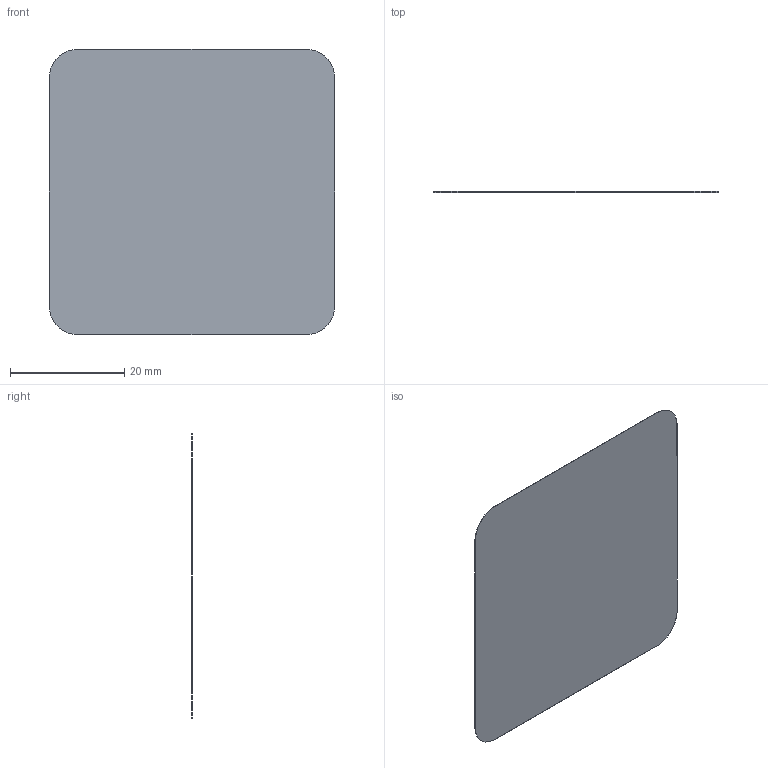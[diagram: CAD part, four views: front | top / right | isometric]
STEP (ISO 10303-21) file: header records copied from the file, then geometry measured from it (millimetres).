
FILE_DESCRIPTION(('Open CASCADE Model'),'2;1');
FILE_NAME('rear_grip_PSA_panel_0.10','2026-09-04T19:55:25',('Author'),( 'Open CASCADE'),'Open CASCADE STEP processor 7.8','build123d', 'Unknown');
FILE_SCHEMA(('AUTOMOTIVE_DESIGN { 1 0 10303 214 1 1 1 1 }'));
Length unit declared in the file: millimetre
Products named in the file (1): rear_grip_PSA_panel_0.10
Bounding box: 50 x 0.1 x 50 mm (x, y, z)
Volume: 247.9 mm3; surface area: 4976.2 mm2
Topology: 1 solids, 1 shells, 10 faces, 24 edges, 16 vertices
Faces by surface type: plane 6, cylinder 4
Entity records: 627 total; most frequent: DIRECTION 102, CARTESIAN_POINT 99, LINE 56, VECTOR 56, ORIENTED_EDGE 48, PCURVE 48, DEFINITIONAL_REPRESENTATION 48, EDGE_CURVE 24
